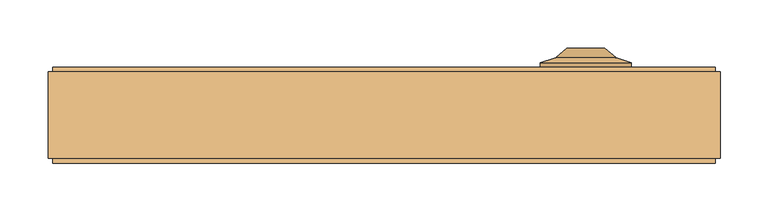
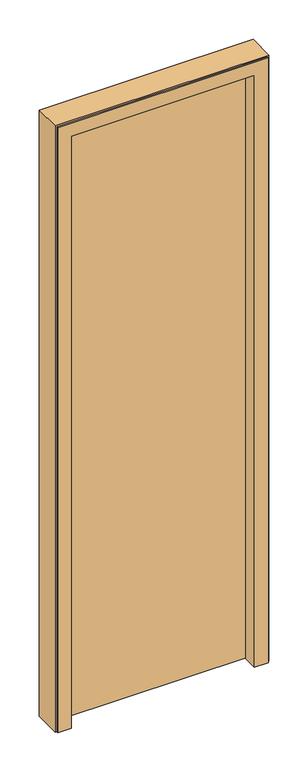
"""IFC4 building model written with IfcOpenShell, lengths in millimetres: door geometry, Puerta contraplacada : Puerta contraplacada 0.7x2.10 m."""

from ifc_helpers import new_model, si_unit, frame, origin, place, context, project, spatial, polyline, circle_curve, outline, extrude, faceted_brep, source, transform, mapped, element, save
from ifc_brep_helpers import plane_surface, cylinder_surface, revolved_surface, advanced_brep


def door_bcd09a2d(model_context):
    return source(origin(), model_context, "Body", "SolidModel", [
        advanced_brep(
        [(257.78125, 55.0, 1000.0), (162.78125, 55.0, 1000.0), (162.78125, 50.0, 1000.0), (257.78125, 50.0, 1000.0), (241.78125, 60.0, 1000.0), (178.78125, 60.0, 1000.0), (229.9828812, 70.0, 1000.0), (190.5796188, 70.0, 1000.0), (228.1741787, 70.0, 1000.0), (192.3883213, 70.0, 1000.0), (228.1741787, 55.0, 1000.0), (192.3883213, 55.0, 1000.0), (210.28125, 55.0, 1000.0), (210.28125, 50.0, 1000.0)],
        [
            (0, 1, circle_curve(frame((210.28125, 55.0, 1000.0), z_axis=(0.0, -1.0, 0.0), x_axis=(-1.0, 0.0, 0.0)), 47.5)),
            (1, 2),
            (2, 3, circle_curve(frame((210.28125, 50.0, 1000.0), z_axis=(0.0, 1.0, 0.0), x_axis=(-1.0, 0.0, 0.0)), 47.5)),
            (3, 0),
            (1, 0, circle_curve(frame((210.28125, 55.0, 1000.0), z_axis=(0.0, -1.0, 0.0), x_axis=(-1.0, 0.0, 0.0)), 47.5)),
            (3, 2, circle_curve(frame((210.28125, 50.0, 1000.0), z_axis=(0.0, 1.0, 0.0), x_axis=(-1.0, 0.0, 0.0)), 47.5)),
            (4, 5, circle_curve(frame((210.28125, 60.0, 1000.0), z_axis=(0.0, -1.0, 0.0), x_axis=(-1.0, 0.0, 0.0)), 31.5)),
            (5, 1),
            (0, 4),
            (5, 4, circle_curve(frame((210.28125, 60.0, 1000.0), z_axis=(0.0, -1.0, 0.0), x_axis=(-1.0, 0.0, 0.0)), 31.5)),
            (6, 7, circle_curve(frame((210.28125, 70.0, 1000.0), z_axis=(0.0, -1.0, 0.0), x_axis=(-1.0, 0.0, 0.0)), 19.7016312)),
            (7, 5),
            (4, 6),
            (7, 6, circle_curve(frame((210.28125, 70.0, 1000.0), z_axis=(0.0, -1.0, 0.0), x_axis=(-1.0, 0.0, 0.0)), 19.7016312)),
            (8, 9, circle_curve(frame((210.28125, 70.0, 1000.0), z_axis=(0.0, -1.0, 0.0), x_axis=(-1.0, 0.0, 0.0)), 17.8929287)),
            (9, 7),
            (6, 8),
            (9, 8, circle_curve(frame((210.28125, 70.0, 1000.0), z_axis=(0.0, -1.0, 0.0), x_axis=(-1.0, 0.0, 0.0)), 17.8929287)),
            (10, 11, circle_curve(frame((210.28125, 55.0, 1000.0), z_axis=(0.0, -1.0, 0.0), x_axis=(-1.0, 0.0, 0.0)), 17.8929287)),
            (11, 9),
            (8, 10),
            (11, 10, circle_curve(frame((210.28125, 55.0, 1000.0), z_axis=(0.0, -1.0, 0.0), x_axis=(-1.0, 0.0, 0.0)), 17.8929287)),
            (12, 11),
            (10, 12),
            (2, 13),
            (13, 3),
        ],
        [
            cylinder_surface(frame((210.28125, 50.0, 1000.0), z_axis=(0.0, 1.0, 0.0), x_axis=(-1.0, 0.0, 0.0)), 47.5),
            revolved_surface(polyline([(162.78125, 55.0, 1000.0), (178.78125, 60.0, 1000.0)]), (210.28125, 50.0, 1000.0), (0.0, 1.0, 0.0)),
            revolved_surface(polyline([(178.78125, 60.0, 1000.0), (190.5796188, 70.0, 1000.0)]), (210.28125, 50.0, 1000.0), (0.0, 1.0, 0.0)),
            plane_surface(frame((210.28125, 70.0, 1000.0), z_axis=(0.0, 1.0, 0.0), x_axis=(-1.0, 0.0, 0.0))),
            revolved_surface(polyline([(192.3883213, 70.0, 1000.0), (192.3883213, 55.0, 1000.0)]), (210.28125, 50.0, 1000.0), (0.0, 1.0, 0.0)),
            plane_surface(frame((210.28125, 55.0, 1000.0), z_axis=(0.0, 1.0, 0.0), x_axis=(-1.0, 0.0, 0.0))),
            plane_surface(frame((210.28125, 50.0, 1000.0), z_axis=(0.0, -1.0, 0.0), x_axis=(-1.0, 0.0, 0.0))),
        ],
        [
            (0, [[1, 2, 3, 4]]),
            (0, [[5, -4, 6, -2]]),
            (1, [[7, 8, -1, 9]]),
            (1, [[10, -9, -5, -8]]),
            (2, [[11, 12, -7, 13]]),
            (2, [[14, -13, -10, -12]]),
            (3, [[15, 16, -11, 17]]),
            (3, [[18, -17, -14, -16]]),
            (4, [[19, 20, -15, 21]]),
            (4, [[22, -21, -18, -20]]),
            (5, [[23, -19, 24]]),
            (5, [[-24, -22, -23]]),
            (6, [[-3, 25, 26]]),
            (6, [[-6, -26, -25]]),
        ],
    ),
        faceted_brep([(350.0, 45.0, 0.0), (350.0, -45.0, 0.0), (345.0, -45.0, 0.0), (345.0, -50.0, 0.0), (300.0, -50.0, 0.0), (300.0, 0.0, 0.0), (317.0, 0.0, 0.0), (317.0, 50.0, 0.0), (345.0, 50.0, 0.0), (345.0, 45.0, 0.0), (350.0, 45.0, 2100.0), (350.0, -45.0, 2100.0), (-350.0, -45.0, 2100.0), (-350.0, -45.0, 0.0), (-345.0, -45.0, 0.0), (-345.0, -45.0, 2095.0), (345.0, -45.0, 2095.0), (345.0, -50.0, 2095.0), (-345.0, -50.0, 2095.0), (-345.0, -50.0, 0.0), (-300.0, -50.0, 0.0), (-300.0, -50.0, 2050.0), (300.0, -50.0, 2050.0), (300.0, 0.0, 2050.0), (-300.0, 0.0, 2050.0), (-300.0, 0.0, 0.0), (-317.0, 0.0, 0.0), (-317.0, 0.0, 2067.0), (317.0, 0.0, 2067.0), (317.0, 50.0, 2067.0), (-317.0, 50.0, 2067.0), (-317.0, 50.0, 1950.0), (-319.0, 50.0, 1950.0), (-319.0, 50.0, 1850.0), (-317.0, 50.0, 1850.0), (-317.0, 50.0, 1075.0174632), (-319.0, 50.0, 1075.0174632), (-319.0, 50.0, 975.0174632), (-317.0, 50.0, 975.0174632), (-317.0, 50.0, 200.0349265), (-319.0, 50.0, 200.0349265), (-319.0, 50.0, 100.0349265), (-317.0, 50.0, 100.0349265), (-317.0, 50.0, 0.0), (-345.0, 50.0, 0.0), (-345.0, 50.0, 2095.0), (345.0, 50.0, 2095.0), (345.0, 45.0, 2095.0), (-345.0, 45.0, 2095.0), (-345.0, 45.0, 0.0), (-350.0, 45.0, 0.0), (-350.0, 45.0, 2100.0), (-317.0, 7.5, 100.0349265), (-317.0, 7.5, 200.0349265), (-317.0, 7.5, 975.0174632), (-317.0, 7.5, 1075.0174632), (-317.0, 7.5, 1850.0), (-317.0, 7.5, 1950.0), (-319.0, 7.5, 100.0349265), (-319.0, 7.5, 200.0349265), (-319.0, 7.5, 975.0174632), (-319.0, 7.5, 1075.0174632), (-319.0, 7.5, 1950.0), (-319.0, 7.5, 1850.0)], [[[0, 1, 2, 3, 4, 5, 6, 7, 8, 9]], [[1, 0, 10, 11]], [[2, 1, 11, 12, 13, 14, 15, 16]], [[3, 2, 16, 17]], [[4, 3, 17, 18, 19, 20, 21, 22]], [[5, 4, 22, 23]], [[6, 5, 23, 24, 25, 26, 27, 28]], [[7, 6, 28, 29]], [[8, 7, 29, 30, 31, 32, 33, 34, 35, 36, 37, 38, 39, 40, 41, 42, 43, 44, 45, 46]], [[9, 8, 46, 47]], [[0, 9, 47, 48, 49, 50, 51, 10]], [[13, 50, 49, 44, 43, 26, 25, 20, 19, 14]], [[12, 51, 50, 13]], [[48, 45, 44, 49]], [[30, 27, 26, 43, 42, 52, 53, 39, 38, 54, 55, 35, 34, 56, 57, 31]], [[24, 21, 20, 25]], [[18, 15, 14, 19]], [[58, 52, 42, 41]], [[58, 59, 53, 52]], [[53, 59, 40, 39]], [[60, 54, 38, 37]], [[60, 61, 55, 54]], [[55, 61, 36, 35]], [[61, 60, 37, 36]], [[59, 58, 41, 40]], [[11, 10, 51, 12]], [[23, 22, 21, 24]], [[29, 28, 27, 30]], [[17, 16, 15, 18]], [[47, 46, 45, 48]], [[62, 63, 33, 32]], [[62, 32, 31, 57]], [[63, 62, 57, 56]], [[33, 63, 56, 34]]]),
        extrude(outline(polyline([(-317.0, 1.803125), (317.0, 1.803125), (317.0, 0.0), (-317.0, 0.0), (-317.0, 1.803125)])), frame((0.0, 0.0, 2.5), z_axis=(0.0, 0.0, 1.0), x_axis=(1.0, 0.0, 0.0)), (0.0, 0.0, 1.0), 2064.5),
        extrude(outline(polyline([(317.0, 48.203125), (-317.0, 48.203125), (-317.0, 50.0), (317.0, 50.0), (317.0, 48.203125)])), frame((0.0, 0.0, 2.5), z_axis=(0.0, 0.0, 1.0), x_axis=(1.0, 0.0, 0.0)), (0.0, 0.0, 1.0), 2064.5),
        extrude(outline(polyline([(242.0, 1.803125), (-242.0, 1.803125), (-242.0, 48.203125), (242.0, 48.203125), (242.0, 1.803125)])), frame((0.0, 0.0, 987.5174632), z_axis=(0.0, 0.0, 1.0), x_axis=(1.0, 0.0, 0.0)), (0.0, 0.0, 1.0), 75.0),
        extrude(outline(polyline([(2067.0, 317.0), (2067.0, -317.0), (2.5, -317.0), (2.5, 317.0), (2067.0, 317.0)]), holes=[polyline([(77.5, 242.0), (77.5, -242.0), (1992.0, -242.0), (1992.0, 242.0), (77.5, 242.0)])]), frame((0.0, 1.803125, 0.0), z_axis=(0.0, 1.0, 0.0), x_axis=(0.0, 0.0, 1.0)), (0.0, 0.0, 1.0), 46.4),
    ])


if __name__ == "__main__":
    model = new_model("IFC4")
    model_context = context("Model", 3, world=origin())
    ifc_project = project(units=[si_unit("LENGTHUNIT", "METRE", prefix="MILLI")], contexts=[model_context])
    site = spatial("IfcSite", under=ifc_project)
    building = spatial("IfcBuilding", under=site)
    placement = place(None, origin())
    door_shape = door_bcd09a2d(model_context)
    element("IfcDoor", 1, ObjectType="Puerta contraplacada : Puerta contraplacada 0.7x2.10 m", at=placement, inside=building, context=model_context, shape_type="MappedRepresentation", body=[
        mapped(door_shape, transform((0.0, 0.0, 0.0), x_axis=(1.0, 0.0, 0.0), y_axis=(0.0, 1.0, 0.0), z_axis=(0.0, 0.0, 1.0))),
    ])
    save(model, "model.ifc")
